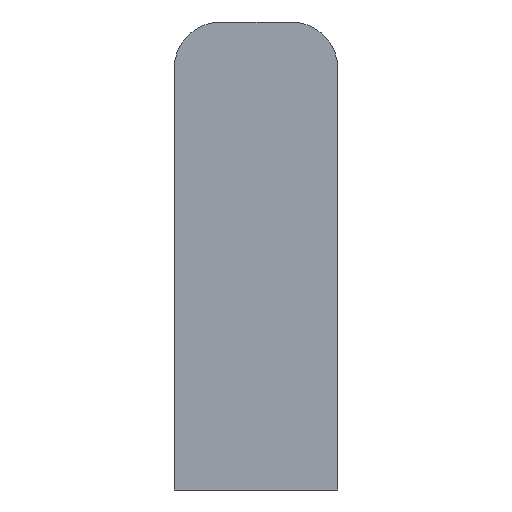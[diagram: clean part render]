
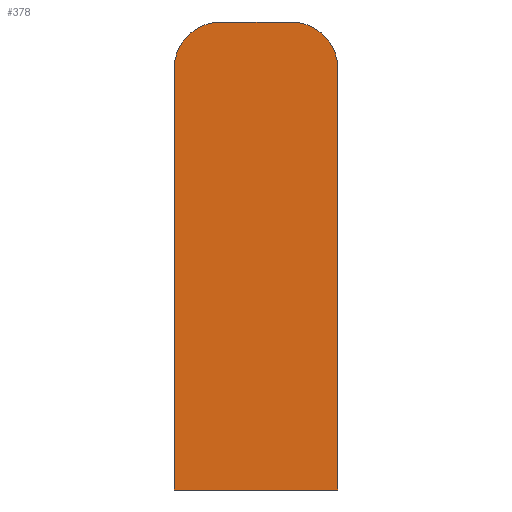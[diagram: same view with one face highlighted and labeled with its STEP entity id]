
A CAD part, front view. The second image highlights one B-rep face of the part: STEP entity #378.
In plain terms, the highlighted planar face has unit normal (0, -1, 0).
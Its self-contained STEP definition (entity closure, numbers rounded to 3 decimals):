
#1 = EDGE_LOOP ( 'NONE', ( #75, #71, #70, #69, #55, #18 ) ) ;
#18 = ORIENTED_EDGE ( 'NONE', *, *, #440, .T. ) ;
#55 = ORIENTED_EDGE ( 'NONE', *, *, #401, .T. ) ;
#69 = ORIENTED_EDGE ( 'NONE', *, *, #438, .T. ) ;
#70 = ORIENTED_EDGE ( 'NONE', *, *, #427, .T. ) ;
#71 = ORIENTED_EDGE ( 'NONE', *, *, #446, .T. ) ;
#75 = ORIENTED_EDGE ( 'NONE', *, *, #411, .T. ) ;
#86 = VECTOR ( 'NONE', #305, 1000. ) ;
#94 = VECTOR ( 'NONE', #324, 1000. ) ;
#95 = LINE ( 'NONE', #323, #94 ) ;
#106 = LINE ( 'NONE', #301, #86 ) ;
#109 = VECTOR ( 'NONE', #282, 1000. ) ;
#111 = VECTOR ( 'NONE', #274, 1000. ) ;
#112 = LINE ( 'NONE', #271, #111 ) ;
#118 = CIRCLE ( 'NONE', #442, 3. ) ;
#126 = CIRCLE ( 'NONE', #402, 3. ) ;
#151 = FACE_OUTER_BOUND ( 'NONE', #1, .T. ) ;
#163 = LINE ( 'NONE', #276, #109 ) ;
#175 = VERTEX_POINT ( 'NONE', #202 ) ;
#177 = CARTESIAN_POINT ( 'NONE',  ( 5.25, 0., -16.5 ) ) ;
#182 = VERTEX_POINT ( 'NONE', #177 ) ;
#188 = VERTEX_POINT ( 'NONE', #190 ) ;
#190 = CARTESIAN_POINT ( 'NONE',  ( 2.25, 0., 13.5 ) ) ;
#194 = VERTEX_POINT ( 'NONE', #200 ) ;
#200 = CARTESIAN_POINT ( 'NONE',  ( 5.25, 0., 10.5 ) ) ;
#202 = CARTESIAN_POINT ( 'NONE',  ( -5.25, 0., -16.5 ) ) ;
#203 = VERTEX_POINT ( 'NONE', #210 ) ;
#207 = VERTEX_POINT ( 'NONE', #214 ) ;
#210 = CARTESIAN_POINT ( 'NONE',  ( -5.25, 0., 10.5 ) ) ;
#214 = CARTESIAN_POINT ( 'NONE',  ( -2.25, 0., 13.5 ) ) ;
#222 = CARTESIAN_POINT ( 'NONE',  ( 0., 0., -1.5 ) ) ;
#223 = PLANE ( 'NONE',  #394 ) ;
#225 = DIRECTION ( 'NONE',  ( 0., 1., 0. ) ) ;
#226 = DIRECTION ( 'NONE',  ( -1., 0., 0. ) ) ;
#271 = CARTESIAN_POINT ( 'NONE',  ( -5.25, 0., -16.5 ) ) ;
#274 = DIRECTION ( 'NONE',  ( 0., 0., -1. ) ) ;
#276 = CARTESIAN_POINT ( 'NONE',  ( 5.25, 0., -16.5 ) ) ;
#282 = DIRECTION ( 'NONE',  ( 0., 0., 1. ) ) ;
#301 = CARTESIAN_POINT ( 'NONE',  ( 2.25, 0., 13.5 ) ) ;
#305 = DIRECTION ( 'NONE',  ( -1., 0., 0. ) ) ;
#316 = CARTESIAN_POINT ( 'NONE',  ( -2.25, 0., 10.5 ) ) ;
#318 = DIRECTION ( 'NONE',  ( 0., -1., 0. ) ) ;
#319 = DIRECTION ( 'NONE',  ( -1., 0., 0. ) ) ;
#323 = CARTESIAN_POINT ( 'NONE',  ( 5.25, 0., -16.5 ) ) ;
#324 = DIRECTION ( 'NONE',  ( 1., 0., 0. ) ) ;
#330 = CARTESIAN_POINT ( 'NONE',  ( 2.25, 0., 10.5 ) ) ;
#333 = DIRECTION ( 'NONE',  ( 0., -1., 0. ) ) ;
#334 = DIRECTION ( 'NONE',  ( -1., 0., 0. ) ) ;
#378 = ADVANCED_FACE ( 'NONE', ( #151 ), #223, .F. ) ;
#394 = AXIS2_PLACEMENT_3D ( 'NONE', #222, #225, #226 ) ;
#401 = EDGE_CURVE ( 'NONE', #203, #175, #112, .T. ) ;
#402 = AXIS2_PLACEMENT_3D ( 'NONE', #330, #333, #334 ) ;
#411 = EDGE_CURVE ( 'NONE', #182, #194, #163, .T. ) ;
#427 = EDGE_CURVE ( 'NONE', #188, #207, #106, .T. ) ;
#438 = EDGE_CURVE ( 'NONE', #207, #203, #118, .T. ) ;
#440 = EDGE_CURVE ( 'NONE', #175, #182, #95, .T. ) ;
#442 = AXIS2_PLACEMENT_3D ( 'NONE', #316, #318, #319 ) ;
#446 = EDGE_CURVE ( 'NONE', #194, #188, #126, .T. ) ;
